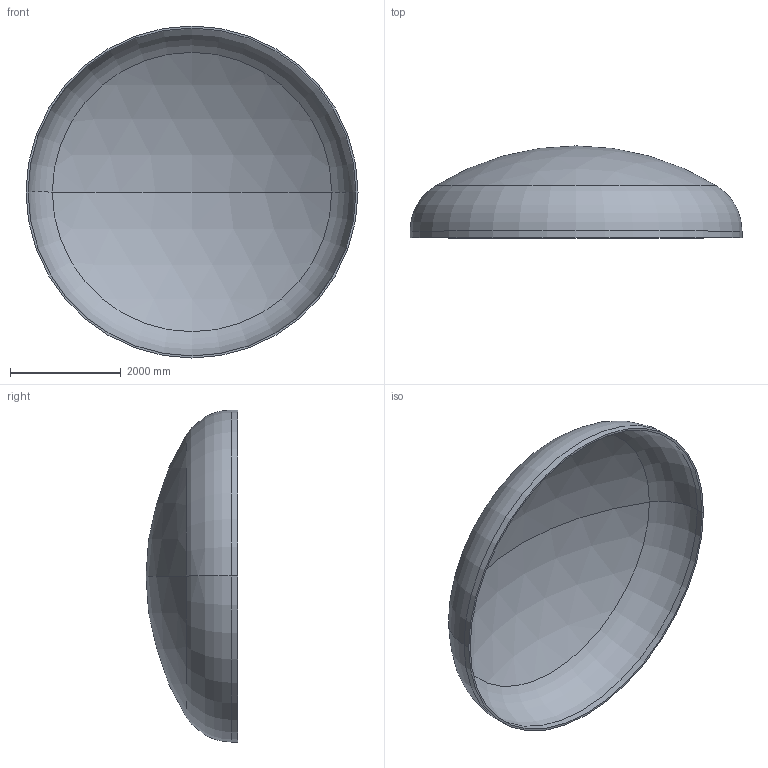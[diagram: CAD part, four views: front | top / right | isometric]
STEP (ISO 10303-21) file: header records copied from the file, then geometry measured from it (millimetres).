
FILE_DESCRIPTION (( 'STEP AP203' ), '1' );
FILE_NAME ('DIN 28013 Korbbogenform_-_Boden DIN 28013 - 6000 x 120 - I - s=37.step', '2016-07-04T10:36:47', ( '' ), ( '' ), 'SwSTEP 2.0', 'SolidWorks 2013', '' );
FILE_SCHEMA (( 'CONFIG_CONTROL_DESIGN' ));
Length unit declared in the file: millimetre
Products named in the file (1): DIN 28013 Korbbogenform_-_Boden DIN 28013 - 6000 x 120 - I - s=37
Bounding box: 6000 x 1661.22 x 6000 mm (x, y, z)
Volume: 1520647344.4 mm3; surface area: 82893121.8 mm2
Topology: 1 solids, 1 shells, 13 faces, 24 edges, 14 vertices
Faces by surface type: torus 4, cylinder 4, sphere 4, plane 1
Entity records: 407 total; most frequent: DIRECTION 72, CARTESIAN_POINT 52, ORIENTED_EDGE 48, AXIS2_PLACEMENT_3D 34, EDGE_CURVE 24, CIRCLE 20, EDGE_LOOP 14, VERTEX_POINT 14
